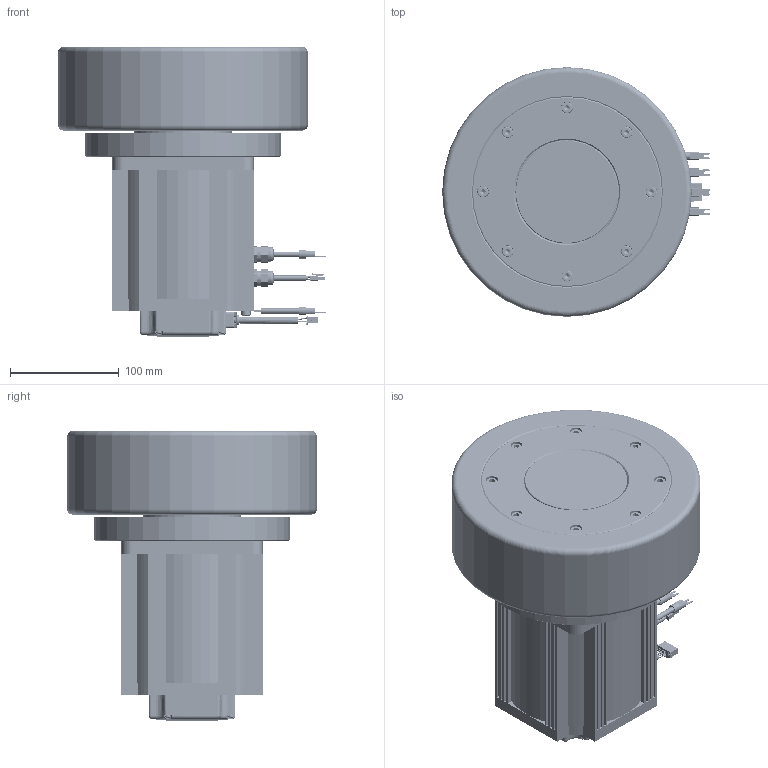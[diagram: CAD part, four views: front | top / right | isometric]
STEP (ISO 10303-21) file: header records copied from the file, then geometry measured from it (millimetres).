
FILE_DESCRIPTION((''),'2;1');
FILE_NAME('MSD230--150-30GSL-B_ASM','2026-06-05T08:55:21',('MS28159'),(''),'CREO PARAMETRIC BY PTC INC, 2018100','CREO PARAMETRIC BY PTC INC, 2018100','');
FILE_SCHEMA(('CONFIG_CONTROL_DESIGN'));
Products named in the file (47): SINGLE_COIL_LOCK_WASHERS_LIGH_3; AEQ-145N-032-15-22-1_X2_6A215_1; HEXAGON_SOCKET_HEAD_CAP_SCREW_2; AEQ-145-H77-W230_1; AEQ-145-L2-15-22-1-H77-W230_ASM_ASM; AEQ-145N-020-15-22-1-H77-W230_A_ASM; ASM0008_ASM_1_ASM; _1-SOLID1_1_2_3_400_1-5105; NONE-1005_1; AGV-1-SOLID1_10001_1; M5-8-SOLID1_1_2_1; _1-SOLID1_1_2_3_400_1-10653; _1-SOLID1_1_2_3_400_1-15453; M5-4-SOLID1_1_2_3_1; _7-SOLID1_1_2_300_1; M10_MM-8-20-2-SOLI0006_1; _1-SOLID1_1_2_3_400_1-23807; M5-3-SOLID1_1_2_1; DEEP_GROOVE_BALL_BEARINGS_GB__4; M5-6-SOLID1_1_2_3_1; M10_MM-8-20-3-SOLI0006_1; M5-1-SOLID1_1_2_3_4_1; M5-2-SOLID1_1_2_3_1; _1-SOLID1_1_2__40001_1; 4619121305633-1-SOLID1_1_2_3_4_; 5016461600-1-SOLID1_1_2_3_1; NONE-35075_1; M10_MM-8-20-5-SOLI0001_1; NONE-37348_1; NONE-38266_1; 463414020-1-SOLID10002_1; _1-SOLID1_1_2_30_1; M5-9-SOLID1_1_2_1; 3698154000285__30001_1; _1-SOLID2_1_2_3_400_1; NONE-53768_1; _6-SOLID1_100_1; M5-5-SOLID1_1_2_3_1; _8-SOLID1_1_200_1; NONE-63727_1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
Assembly tree (60 placements, depth 5):
  MSD230--150-30GSL-B_ASM
    ASM0008_ASM_1_ASM
      AEQ-145N-020-15-22-1-H77-W230_A_ASM
        AEQ-145-L2-15-22-1-H77-W230_ASM_ASM
          SINGLE_COIL_LOCK_WASHERS_LIGH_3  x8
          AEQ-145N-032-15-22-1_X2_6A215_1
          HEXAGON_SOCKET_HEAD_CAP_SCREW_2  x8
          AEQ-145-H77-W230_1
    130SVE04302-1500G_ASM
      4611170005764_A0_ASM_1_ASM
        4611170005764_A0_1_ASM_1_ASM
          _1-SOLID1_1_2_3_400_1-5105
          NONE-1005_1
          AGV-1-SOLID1_10001_1
          M5-8-SOLID1_1_2_1
          _1-SOLID1_1_2_3_400_1-10653
          _1-SOLID1_1_2_3_400_1-15453
          M5-4-SOLID1_1_2_3_1
          _7-SOLID1_1_2_300_1
          M10_MM-8-20-2-SOLI0006_1
          _1-SOLID1_1_2_3_400_1-23807
          M5-3-SOLID1_1_2_1
          DEEP_GROOVE_BALL_BEARINGS_GB__4
          M5-6-SOLID1_1_2_3_1
          M10_MM-8-20-3-SOLI0006_1
          M5-1-SOLID1_1_2_3_4_1
          M5-2-SOLID1_1_2_3_1
          _1-SOLID1_1_2__40001_1
          4619121305633-1-SOLID1_1_2_3_4_
          5016461600-1-SOLID1_1_2_3_1
          NONE-35075_1
          M10_MM-8-20-5-SOLI0001_1
          NONE-37348_1
          NONE-38266_1
          463414020-1-SOLID10002_1
          _1-SOLID1_1_2_30_1
          M5-9-SOLID1_1_2_1
          3698154000285__30001_1
          _1-SOLID2_1_2_3_400_1
          NONE-53768_1
          _6-SOLID1_100_1
          M5-5-SOLID1_1_2_3_1
          _8-SOLID1_1_200_1
          NONE-63727_1
          M5-7-SOLID1_1_1_1
          M10_MM-8-20-1-SOLI0006_1
          _9-SOLID1_1_200_1
Bounding box: 246.65 x 230 x 267.3 mm (x, y, z)
Volume: 4450441.8 mm3; surface area: 638374 mm2
Topology: 54 solids, 60 shells, 4485 faces, 10591 edges, 6264 vertices
Faces by surface type: plane 1446, cone 1399, cylinder 1279, torus 249, bspline 50, sphere 48, extrusion 14
Entity records: 89961 total; most frequent: CARTESIAN_POINT 22553, DIRECTION 14271, ORIENTED_EDGE 13734, EDGE_CURVE 6867, AXIS2_PLACEMENT_3D 5261, VERTEX_POINT 4381, VECTOR 3749, LINE 3735
